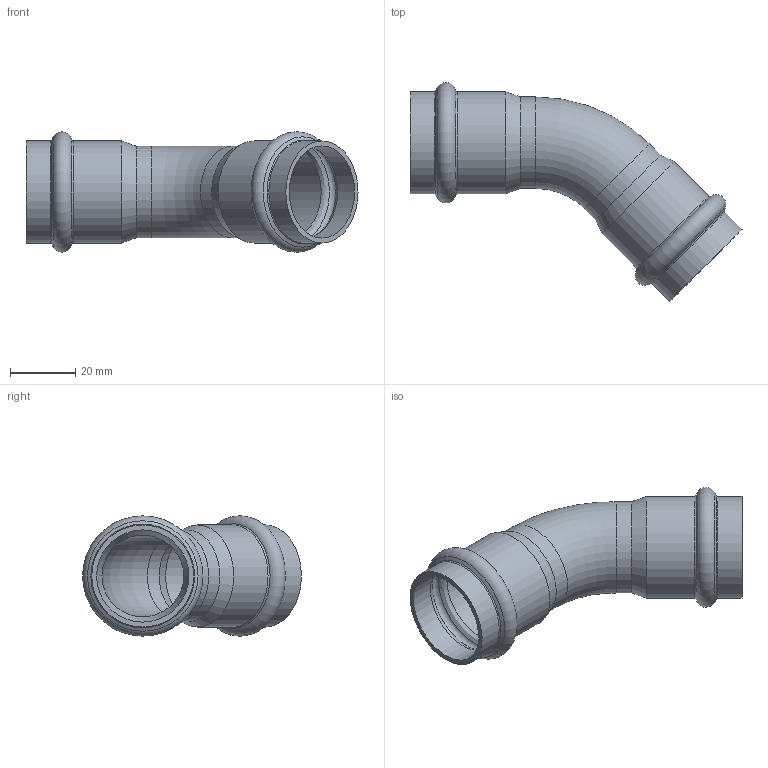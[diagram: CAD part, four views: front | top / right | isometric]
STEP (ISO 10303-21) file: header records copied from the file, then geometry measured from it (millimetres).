
FILE_DESCRIPTION((''),'2;1');
FILE_NAME('G:\Nirosan-Schmiedefeld\Technics\CAD\Bauteile VA\028\6904128(2).stp','2014-01-09T11:21:25',('herberg'),(''),'Autodesk Inventor 2009','Autodesk Inventor 2009','');
FILE_SCHEMA(('AUTOMOTIVE_DESIGN { 1 0 10303 214 1 1 1 1 }'));
Length unit declared in the file: millimetre
Products named in the file (1): 6904128(2)
Bounding box: 101.51 x 66.9 x 36.79 mm (x, y, z)
Volume: 15073.3 mm3; surface area: 20377.2 mm2
Topology: 1 solids, 1 shells, 36 faces, 76 edges, 42 vertices
Faces by surface type: cylinder 12, bspline 8, cone 8, torus 6, plane 2
Full cylindrical faces by diameter (mm): 25 x2, 28 x2, 28.2 x4, 31.2 x4
Entity records: 1218 total; most frequent: CARTESIAN_POINT 605, DIRECTION 130, ORIENTED_EDGE 72, EDGE_LOOP 72, AXIS2_PLACEMENT_3D 65, VERTEX_POINT 36, CIRCLE 36, EDGE_CURVE 36
